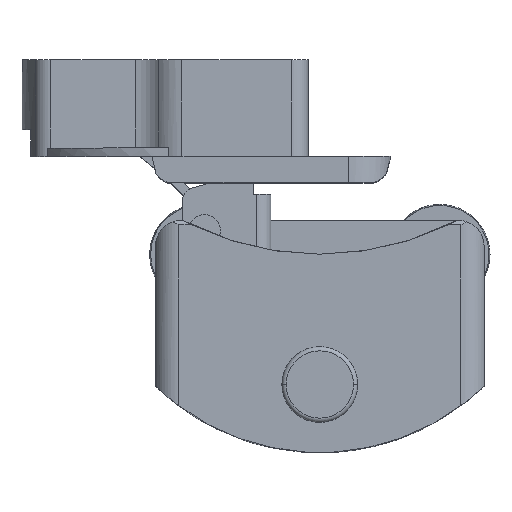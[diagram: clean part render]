
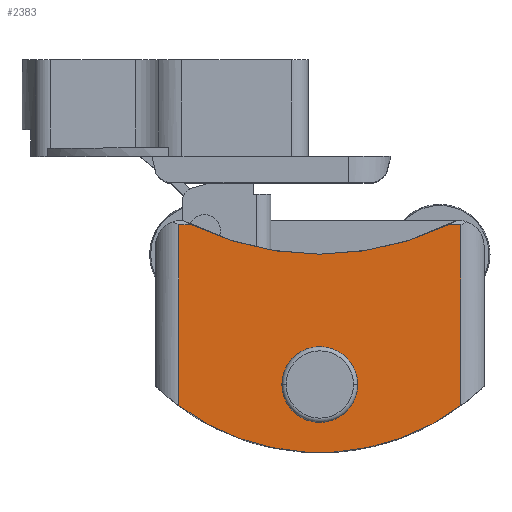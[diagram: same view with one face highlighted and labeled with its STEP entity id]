
A CAD part, top view. The second image highlights one B-rep face of the part: STEP entity #2383.
In plain terms, the highlighted planar face has unit normal (0, 0, 1).
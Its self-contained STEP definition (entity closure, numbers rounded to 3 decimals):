
#2011 = VERTEX_POINT( '', #5862 );
#2135 = EDGE_CURVE( '', #2735, #3891, #5994, .T. );
#2381 = VERTEX_POINT( '', #6271 );
#2383 = ADVANCED_FACE( '', ( #6273, #6274 ), #6275, .T. );
#2447 = EDGE_CURVE( '', #4261, #3105, #6344, .T. );
#2609 = EDGE_CURVE( '', #2381, #4657, #6517, .T. );
#2687 = VERTEX_POINT( '', #6602 );
#2735 = VERTEX_POINT( '', #6657 );
#2793 = EDGE_CURVE( '', #2735, #4681, #6718, .T. );
#2909 = VERTEX_POINT( '', #6842 );
#3105 = VERTEX_POINT( '', #7058 );
#3431 = EDGE_CURVE( '', #3105, #2687, #7422, .T. );
#3697 = EDGE_CURVE( '', #4657, #4261, #7713, .T. );
#3891 = VERTEX_POINT( '', #7924 );
#4261 = VERTEX_POINT( '', #8329 );
#4367 = EDGE_CURVE( '', #2381, #4681, #8446, .T. );
#4657 = VERTEX_POINT( '', #8767 );
#4681 = VERTEX_POINT( '', #8794 );
#4991 = EDGE_CURVE( '', #2011, #2909, #9130, .T. );
#5125 = EDGE_CURVE( '', #2687, #3891, #9278, .T. );
#5407 = EDGE_CURVE( '', #2909, #2011, #9583, .T. );
#5862 = CARTESIAN_POINT( '', ( -4., -14.85, 31.2 ) );
#5994 = LINE( '', #10276, #10277 );
#6271 = CARTESIAN_POINT( '', ( 1.673, -22.85, 31.2 ) );
#6273 = FACE_BOUND( '', #10716, .T. );
#6274 = FACE_OUTER_BOUND( '', #10717, .T. );
#6275 = PLANE( '', #10718 );
#6344 = LINE( '', #10824, #10825 );
#6517 = CIRCLE( '', #11078, 28. );
#6602 = CARTESIAN_POINT( '', ( -15.258, 4.15, 31.2 ) );
#6657 = CARTESIAN_POINT( '', ( -16.75, -17.337, 31.2 ) );
#6718 = CIRCLE( '', #11359, 28. );
#6842 = CARTESIAN_POINT( '', ( 4., -14.85, 31.2 ) );
#7058 = CARTESIAN_POINT( '', ( 15.258, 4.15, 31.2 ) );
#7422 = CIRCLE( '', #12361, 35.008 );
#7713 = LINE( '', #12784, #12785 );
#7924 = CARTESIAN_POINT( '', ( -16.75, 4.15, 31.2 ) );
#8329 = CARTESIAN_POINT( '', ( 16.75, 4.15, 31.2 ) );
#8446 = LINE( '', #13822, #13823 );
#8767 = CARTESIAN_POINT( '', ( 16.75, -17.337, 31.2 ) );
#8794 = CARTESIAN_POINT( '', ( -1.673, -22.85, 31.2 ) );
#9130 = CIRCLE( '', #14807, 4. );
#9278 = LINE( '', #15029, #15030 );
#9583 = CIRCLE( '', #15486, 4. );
#10276 = CARTESIAN_POINT( '', ( -16.75, -13.75, 31.2 ) );
#10277 = VECTOR( '', #16261, 1. );
#10716 = EDGE_LOOP( '', ( #16629, #16630 ) );
#10717 = EDGE_LOOP( '', ( #16631, #16632, #16633, #16634, #16635, #16636, #16637, #16638 ) );
#10718 = AXIS2_PLACEMENT_3D( '', #16639, #16640, #16641 );
#10824 = CARTESIAN_POINT( '', ( 19.75, 4.15, 31.2 ) );
#10825 = VECTOR( '', #16712, 1. );
#11078 = AXIS2_PLACEMENT_3D( '', #16879, #16880, #16881 );
#11359 = AXIS2_PLACEMENT_3D( '', #17069, #17070, #17071 );
#12361 = AXIS2_PLACEMENT_3D( '', #17826, #17827, #17828 );
#12784 = CARTESIAN_POINT( '', ( 16.75, -13.75, 31.2 ) );
#12785 = VECTOR( '', #18213, 1. );
#13822 = CARTESIAN_POINT( '', ( 19.75, -22.85, 31.2 ) );
#13823 = VECTOR( '', #19021, 1. );
#14807 = AXIS2_PLACEMENT_3D( '', #19743, #19744, #19745 );
#15029 = CARTESIAN_POINT( '', ( 19.75, 4.15, 31.2 ) );
#15030 = VECTOR( '', #19907, 1. );
#15486 = AXIS2_PLACEMENT_3D( '', #20289, #20290, #20291 );
#16261 = DIRECTION( '', ( 0., 1., 0. ) );
#16629 = ORIENTED_EDGE( '', *, *, #5407, .T. );
#16630 = ORIENTED_EDGE( '', *, *, #4991, .T. );
#16631 = ORIENTED_EDGE( '', *, *, #3431, .T. );
#16632 = ORIENTED_EDGE( '', *, *, #5125, .T. );
#16633 = ORIENTED_EDGE( '', *, *, #2135, .F. );
#16634 = ORIENTED_EDGE( '', *, *, #2793, .T. );
#16635 = ORIENTED_EDGE( '', *, *, #4367, .F. );
#16636 = ORIENTED_EDGE( '', *, *, #2609, .T. );
#16637 = ORIENTED_EDGE( '', *, *, #3697, .T. );
#16638 = ORIENTED_EDGE( '', *, *, #2447, .T. );
#16639 = CARTESIAN_POINT( '', ( 19.75, 4.15, 31.2 ) );
#16640 = DIRECTION( '', ( 0., 0., 1. ) );
#16641 = DIRECTION( '', ( 0., 1., 0. ) );
#16712 = DIRECTION( '', ( -1., 0., 0. ) );
#16879 = CARTESIAN_POINT( '', ( 0., 5.1, 31.2 ) );
#16880 = DIRECTION( '', ( 0., 0., 1. ) );
#16881 = DIRECTION( '', ( 0.705, -0.709, 0. ) );
#17069 = CARTESIAN_POINT( '', ( 0., 5.1, 31.2 ) );
#17070 = DIRECTION( '', ( 0., 0., 1. ) );
#17071 = DIRECTION( '', ( 0.705, -0.709, 0. ) );
#17826 = CARTESIAN_POINT( '', ( 0., 35.658, 31.2 ) );
#17827 = DIRECTION( '', ( 0., 0., -1. ) );
#17828 = DIRECTION( '', ( -0.464, -0.886, 0. ) );
#18213 = DIRECTION( '', ( 0., 1., 0. ) );
#19021 = DIRECTION( '', ( -1., 0., 0. ) );
#19743 = CARTESIAN_POINT( '', ( 0., -14.85, 31.2 ) );
#19744 = DIRECTION( '', ( 0., 0., -1. ) );
#19745 = DIRECTION( '', ( 1., 0., 0. ) );
#19907 = DIRECTION( '', ( -1., 0., 0. ) );
#20289 = CARTESIAN_POINT( '', ( 0., -14.85, 31.2 ) );
#20290 = DIRECTION( '', ( 0., 0., -1. ) );
#20291 = DIRECTION( '', ( 1., 0., 0. ) );
